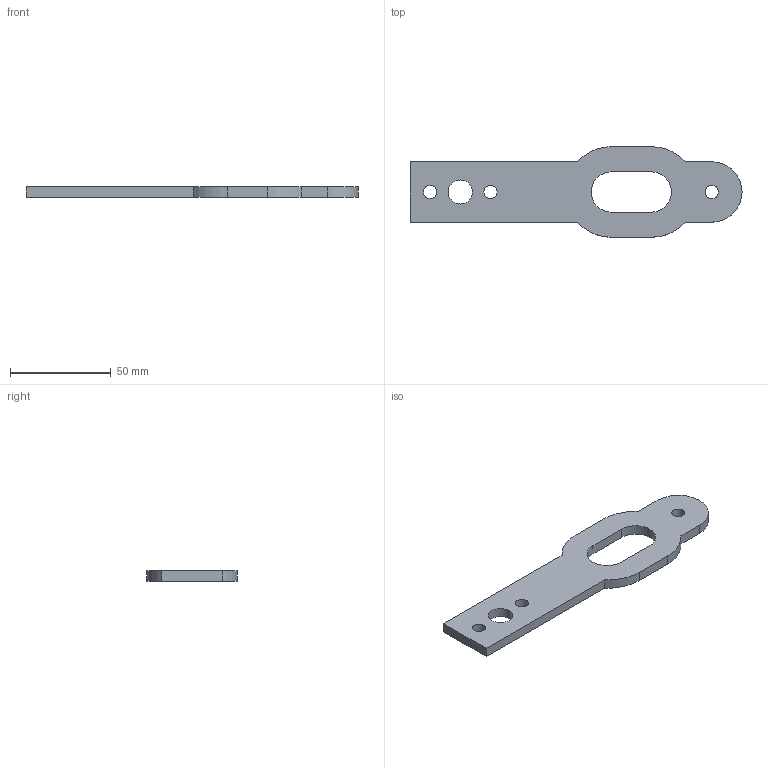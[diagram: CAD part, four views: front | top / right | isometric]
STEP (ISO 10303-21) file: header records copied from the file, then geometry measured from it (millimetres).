
FILE_DESCRIPTION( ( 'Unknown' ), '1' );
FILE_NAME( 'F:/navkite transat/construction/2016/3D ET ASSEMBLAGES/AMI/AMI 21.stp', 'Unknown', ( 'GMA' ), ( 'Unknown' ), 'XStep 1.0', 'Unknown', ' ' );
FILE_SCHEMA( ( 'automotive_design' ) );
Length unit declared in the file: millimetre
Products named in the file (1): 1
Bounding box: 165 x 45 x 5 mm (x, y, z)
Volume: 22875.5 mm3; surface area: 12087.8 mm2
Topology: 1 solids, 1 shells, 22 faces, 60 edges, 40 vertices
Faces by surface type: plane 11, cylinder 11
Full cylindrical faces by diameter (mm): 6.5 x3, 12 x1
Entity records: 898 total; most frequent: DIRECTION 124, CARTESIAN_POINT 119, ORIENTED_EDGE 112, EDGE_CURVE 56, AXIS2_PLACEMENT_3D 45, VERTEX_POINT 40, EDGE_LOOP 36, LINE 34
